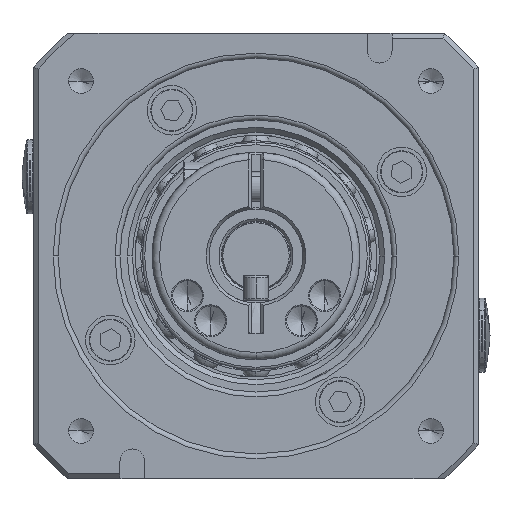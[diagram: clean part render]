
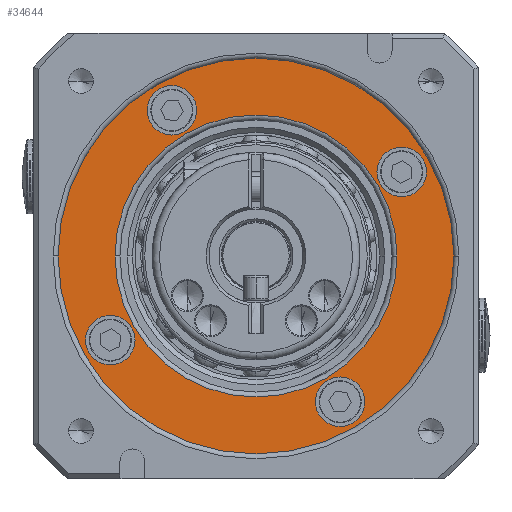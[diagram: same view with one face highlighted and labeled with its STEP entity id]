
A CAD part, left-side view. The second image highlights one B-rep face of the part: STEP entity #34644.
In plain terms, the highlighted planar face has unit normal (-1, 0, 0).
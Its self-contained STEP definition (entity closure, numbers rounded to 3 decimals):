
#146 = AXIS2_PLACEMENT_3D ( 'NONE', #29721, #4964, #2253 ) ;
#256 = ORIENTED_EDGE ( 'NONE', *, *, #13487, .F. ) ;
#491 = VERTEX_POINT ( 'NONE', #17249 ) ;
#788 = DIRECTION ( 'NONE',  ( 0., -1., 0. ) ) ;
#815 = CARTESIAN_POINT ( 'NONE',  ( -48., 29.445, -17. ) ) ;
#1625 = VERTEX_POINT ( 'NONE', #4830 ) ;
#2253 = DIRECTION ( 'NONE',  ( 0., -1., 0. ) ) ;
#2398 = ORIENTED_EDGE ( 'NONE', *, *, #34666, .F. ) ;
#2796 = EDGE_CURVE ( 'NONE', #27755, #6175, #15920, .T. ) ;
#2907 = CARTESIAN_POINT ( 'NONE',  ( -48., 0., 0. ) ) ;
#3254 = DIRECTION ( 'NONE',  ( 0., -1., 0. ) ) ;
#3373 = DIRECTION ( 'NONE',  ( -1., 0., 0. ) ) ;
#3395 = CIRCLE ( 'NONE', #13199, 5. ) ;
#3477 = DIRECTION ( 'NONE',  ( -1., 0., 0. ) ) ;
#3524 = ORIENTED_EDGE ( 'NONE', *, *, #8196, .F. ) ;
#3871 = EDGE_CURVE ( 'NONE', #6175, #27755, #29816, .T. ) ;
#4393 = CARTESIAN_POINT ( 'NONE',  ( -48., -29.445, 17. ) ) ;
#4680 = FACE_BOUND ( 'NONE', #17914, .T. ) ;
#4830 = CARTESIAN_POINT ( 'NONE',  ( -48., -24.445, 17. ) ) ;
#4964 = DIRECTION ( 'NONE',  ( 1., 0., 0. ) ) ;
#5694 = EDGE_LOOP ( 'NONE', ( #23666, #22069 ) ) ;
#5888 = CIRCLE ( 'NONE', #8174, 5. ) ;
#5902 = CARTESIAN_POINT ( 'NONE',  ( -48., 40., 0. ) ) ;
#6175 = VERTEX_POINT ( 'NONE', #9704 ) ;
#6318 = CARTESIAN_POINT ( 'NONE',  ( -48., 34.445, -17. ) ) ;
#6585 = VERTEX_POINT ( 'NONE', #5902 ) ;
#6868 = EDGE_CURVE ( 'NONE', #22748, #32666, #10496, .T. ) ;
#6972 = DIRECTION ( 'NONE',  ( -1., 0., 0. ) ) ;
#7294 = EDGE_CURVE ( 'NONE', #32666, #22748, #20968, .T. ) ;
#7379 = DIRECTION ( 'NONE',  ( -1., 0., 0. ) ) ;
#7547 = AXIS2_PLACEMENT_3D ( 'NONE', #815, #9316, #9143 ) ;
#7773 = ORIENTED_EDGE ( 'NONE', *, *, #2796, .F. ) ;
#8174 = AXIS2_PLACEMENT_3D ( 'NONE', #23238, #6972, #28842 ) ;
#8196 = EDGE_CURVE ( 'NONE', #1625, #29680, #10171, .T. ) ;
#9143 = DIRECTION ( 'NONE',  ( 0., -1., 0. ) ) ;
#9316 = DIRECTION ( 'NONE',  ( -1., 0., 0. ) ) ;
#9626 = AXIS2_PLACEMENT_3D ( 'NONE', #28821, #31514, #788 ) ;
#9704 = CARTESIAN_POINT ( 'NONE',  ( -48., 12., 29.445 ) ) ;
#9790 = ORIENTED_EDGE ( 'NONE', *, *, #6868, .T. ) ;
#10126 = DIRECTION ( 'NONE',  ( 0., -1., 0. ) ) ;
#10171 = CIRCLE ( 'NONE', #19413, 5. ) ;
#10496 = CIRCLE ( 'NONE', #146, 28.5 ) ;
#10707 = EDGE_CURVE ( 'NONE', #29971, #21683, #11387, .T. ) ;
#11387 = CIRCLE ( 'NONE', #24109, 5. ) ;
#11527 = CARTESIAN_POINT ( 'NONE',  ( -48., -40., 0. ) ) ;
#12618 = DIRECTION ( 'NONE',  ( -1., 0., 0. ) ) ;
#13145 = FACE_BOUND ( 'NONE', #20093, .T. ) ;
#13199 = AXIS2_PLACEMENT_3D ( 'NONE', #33210, #3373, #30834 ) ;
#13202 = CARTESIAN_POINT ( 'NONE',  ( -48., 17., 29.445 ) ) ;
#13487 = EDGE_CURVE ( 'NONE', #491, #23196, #17333, .T. ) ;
#13492 = EDGE_CURVE ( 'NONE', #25669, #6585, #32943, .T. ) ;
#13760 = AXIS2_PLACEMENT_3D ( 'NONE', #32672, #7379, #26716 ) ;
#15037 = DIRECTION ( 'NONE',  ( -1., 0., 0. ) ) ;
#15378 = AXIS2_PLACEMENT_3D ( 'NONE', #13202, #15557, #18272 ) ;
#15395 = DIRECTION ( 'NONE',  ( 0., -1., 0. ) ) ;
#15503 = FACE_BOUND ( 'NONE', #23081, .T. ) ;
#15557 = DIRECTION ( 'NONE',  ( -1., 0., 0. ) ) ;
#15920 = CIRCLE ( 'NONE', #28625, 5. ) ;
#16160 = EDGE_LOOP ( 'NONE', ( #27671, #7773 ) ) ;
#16920 = CARTESIAN_POINT ( 'NONE',  ( -48., 0., 0. ) ) ;
#17214 = CARTESIAN_POINT ( 'NONE',  ( -48., -17., -29.445 ) ) ;
#17249 = CARTESIAN_POINT ( 'NONE',  ( -48., 24.445, -17. ) ) ;
#17333 = CIRCLE ( 'NONE', #7547, 5. ) ;
#17457 = DIRECTION ( 'NONE',  ( -1., 0., 0. ) ) ;
#17824 = AXIS2_PLACEMENT_3D ( 'NONE', #25993, #12618, #23653 ) ;
#17914 = EDGE_LOOP ( 'NONE', ( #32891, #18164 ) ) ;
#18164 = ORIENTED_EDGE ( 'NONE', *, *, #10707, .F. ) ;
#18272 = DIRECTION ( 'NONE',  ( 0., -1., 0. ) ) ;
#18474 = DIRECTION ( 'NONE',  ( 0., -1., 0. ) ) ;
#19393 = CARTESIAN_POINT ( 'NONE',  ( -48., -34.445, 17. ) ) ;
#19413 = AXIS2_PLACEMENT_3D ( 'NONE', #4393, #15037, #15395 ) ;
#20011 = CIRCLE ( 'NONE', #9626, 5. ) ;
#20093 = EDGE_LOOP ( 'NONE', ( #9790, #33131 ) ) ;
#20968 = CIRCLE ( 'NONE', #29619, 28.5 ) ;
#21683 = VERTEX_POINT ( 'NONE', #27277 ) ;
#21775 = EDGE_CURVE ( 'NONE', #21683, #29971, #5888, .T. ) ;
#21836 = FACE_BOUND ( 'NONE', #22926, .T. ) ;
#21902 = CARTESIAN_POINT ( 'NONE',  ( -48., -12., -29.445 ) ) ;
#22069 = ORIENTED_EDGE ( 'NONE', *, *, #34421, .T. ) ;
#22546 = AXIS2_PLACEMENT_3D ( 'NONE', #16920, #17457, #28494 ) ;
#22748 = VERTEX_POINT ( 'NONE', #23464 ) ;
#22926 = EDGE_LOOP ( 'NONE', ( #2398, #3524 ) ) ;
#22980 = DIRECTION ( 'NONE',  ( -1., 0., 0. ) ) ;
#23081 = EDGE_LOOP ( 'NONE', ( #256, #27561 ) ) ;
#23196 = VERTEX_POINT ( 'NONE', #6318 ) ;
#23238 = CARTESIAN_POINT ( 'NONE',  ( -48., -17., -29.445 ) ) ;
#23464 = CARTESIAN_POINT ( 'NONE',  ( -48., -28.5, 0. ) ) ;
#23653 = DIRECTION ( 'NONE',  ( 0., -1., 0. ) ) ;
#23666 = ORIENTED_EDGE ( 'NONE', *, *, #13492, .T. ) ;
#24109 = AXIS2_PLACEMENT_3D ( 'NONE', #17214, #3477, #18474 ) ;
#25512 = CARTESIAN_POINT ( 'NONE',  ( -48., 22., 29.445 ) ) ;
#25669 = VERTEX_POINT ( 'NONE', #11527 ) ;
#25993 = CARTESIAN_POINT ( 'NONE',  ( -48., 0., 0. ) ) ;
#26716 = DIRECTION ( 'NONE',  ( 0., -1., 0. ) ) ;
#27277 = CARTESIAN_POINT ( 'NONE',  ( -48., -22., -29.445 ) ) ;
#27561 = ORIENTED_EDGE ( 'NONE', *, *, #32851, .F. ) ;
#27671 = ORIENTED_EDGE ( 'NONE', *, *, #3871, .F. ) ;
#27755 = VERTEX_POINT ( 'NONE', #25512 ) ;
#28209 = DIRECTION ( 'NONE',  ( 1., 0., 0. ) ) ;
#28494 = DIRECTION ( 'NONE',  ( 0., -1., 0. ) ) ;
#28625 = AXIS2_PLACEMENT_3D ( 'NONE', #34366, #22980, #10126 ) ;
#28821 = CARTESIAN_POINT ( 'NONE',  ( -48., 29.445, -17. ) ) ;
#28842 = DIRECTION ( 'NONE',  ( 0., -1., 0. ) ) ;
#29366 = CIRCLE ( 'NONE', #17824, 40. ) ;
#29619 = AXIS2_PLACEMENT_3D ( 'NONE', #2907, #28209, #3254 ) ;
#29680 = VERTEX_POINT ( 'NONE', #19393 ) ;
#29721 = CARTESIAN_POINT ( 'NONE',  ( -48., 0., 0. ) ) ;
#29816 = CIRCLE ( 'NONE', #15378, 5. ) ;
#29971 = VERTEX_POINT ( 'NONE', #21902 ) ;
#30695 = CARTESIAN_POINT ( 'NONE',  ( -48., 28.5, 0. ) ) ;
#30834 = DIRECTION ( 'NONE',  ( 0., -1., 0. ) ) ;
#31514 = DIRECTION ( 'NONE',  ( -1., 0., 0. ) ) ;
#32133 = PLANE ( 'NONE',  #13760 ) ;
#32666 = VERTEX_POINT ( 'NONE', #30695 ) ;
#32672 = CARTESIAN_POINT ( 'NONE',  ( -48., 0., 0. ) ) ;
#32851 = EDGE_CURVE ( 'NONE', #23196, #491, #20011, .T. ) ;
#32891 = ORIENTED_EDGE ( 'NONE', *, *, #21775, .F. ) ;
#32943 = CIRCLE ( 'NONE', #22546, 40. ) ;
#33131 = ORIENTED_EDGE ( 'NONE', *, *, #7294, .T. ) ;
#33210 = CARTESIAN_POINT ( 'NONE',  ( -48., -29.445, 17. ) ) ;
#34366 = CARTESIAN_POINT ( 'NONE',  ( -48., 17., 29.445 ) ) ;
#34421 = EDGE_CURVE ( 'NONE', #6585, #25669, #29366, .T. ) ;
#34644 = ADVANCED_FACE ( 'NONE', ( #13145, #21836, #4680, #15503, #35216, #34854 ), #32133, .T. ) ;
#34666 = EDGE_CURVE ( 'NONE', #29680, #1625, #3395, .T. ) ;
#34854 = FACE_OUTER_BOUND ( 'NONE', #5694, .T. ) ;
#35216 = FACE_BOUND ( 'NONE', #16160, .T. ) ;
